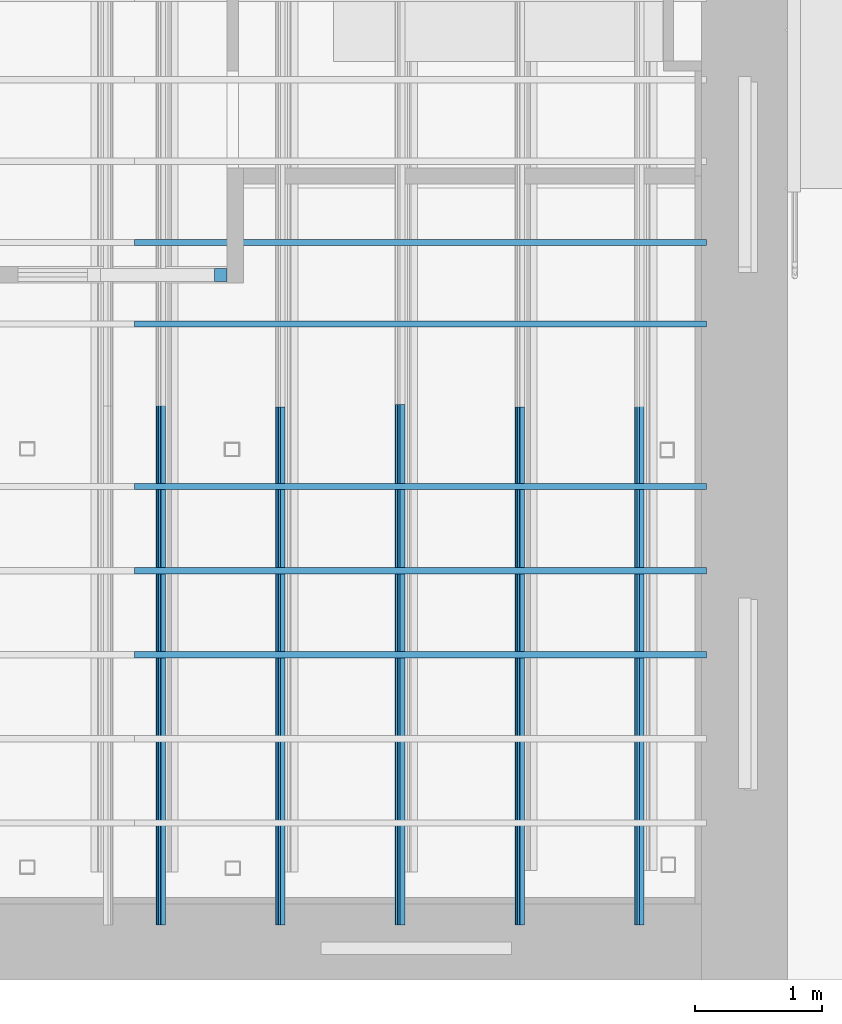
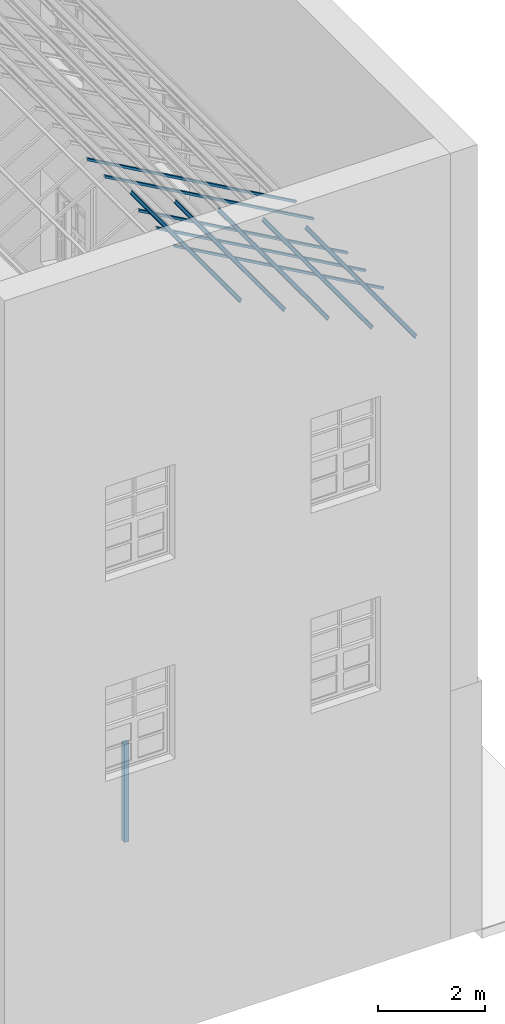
# One storey, part 23 of 75: 10 beams, 1 member, 1 element without a shape of its own.
"""IFC2X3 building model written with IfcOpenShell, lengths in metres."""

from ifc_helpers import new_model, entity, si_unit, converted_unit, derived_unit, direction, frame, frame_2d, origin, origin_2d_with_axis, place, context, subcontext, project, spatial, polyline, circle_curve, parameter, trimmed, segment, composite_curve, rectangle, outline, extrude, clip, halfspace, source, transform, mapped, material, type_object, type_shapes, element, aggregate, save


model = new_model("IFC2X3")

# Units and contexts
model_context = context("Model", 3, precision=1e-05, world=origin(), true_north=direction((6.12303176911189e-17, 1.0)))
body_context = subcontext(model_context, "Body", "Model", "MODEL_VIEW")
ifc_project = project(units=[si_unit("LENGTHUNIT", "METRE"), si_unit("AREAUNIT", "SQUARE_METRE"), si_unit("VOLUMEUNIT", "CUBIC_METRE"), converted_unit("PLANEANGLEUNIT", "DEGREE", entity("IfcRatioMeasure", 0.0174532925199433), si_unit("PLANEANGLEUNIT", "RADIAN"), dimensions=[0, 0, 0, 0, 0, 0, 0]), si_unit("MASSUNIT", "GRAM", prefix="KILO"), derived_unit("MASSDENSITYUNIT", [(si_unit("MASSUNIT", "GRAM", prefix="KILO"), 1), (si_unit("LENGTHUNIT", "METRE"), -3)]), derived_unit("MOMENTOFINERTIAUNIT", [(si_unit("LENGTHUNIT", "METRE"), 4)]), si_unit("TIMEUNIT", "SECOND"), si_unit("FREQUENCYUNIT", "HERTZ"), si_unit("THERMODYNAMICTEMPERATUREUNIT", "DEGREE_CELSIUS"), derived_unit("THERMALTRANSMITTANCEUNIT", [(si_unit("MASSUNIT", "GRAM", prefix="KILO"), 1), (si_unit("THERMODYNAMICTEMPERATUREUNIT", "KELVIN"), -1), (si_unit("TIMEUNIT", "SECOND"), -3)]), derived_unit("VOLUMETRICFLOWRATEUNIT", [(si_unit("LENGTHUNIT", "METRE"), 3), (si_unit("TIMEUNIT", "SECOND"), -1)]), si_unit("ELECTRICCURRENTUNIT", "AMPERE"), si_unit("ELECTRICVOLTAGEUNIT", "VOLT"), si_unit("POWERUNIT", "WATT"), si_unit("FORCEUNIT", "NEWTON", prefix="KILO"), si_unit("ILLUMINANCEUNIT", "LUX"), si_unit("LUMINOUSFLUXUNIT", "LUMEN"), si_unit("LUMINOUSINTENSITYUNIT", "CANDELA"), derived_unit("USERDEFINED", [(si_unit("MASSUNIT", "GRAM", prefix="KILO"), -1), (si_unit("LENGTHUNIT", "METRE"), -2), (si_unit("TIMEUNIT", "SECOND"), 3), (si_unit("LUMINOUSFLUXUNIT", "LUMEN"), 1)]), derived_unit("LINEARVELOCITYUNIT", [(si_unit("LENGTHUNIT", "METRE"), 1), (si_unit("TIMEUNIT", "SECOND"), -1)]), si_unit("PRESSUREUNIT", "PASCAL"), derived_unit("USERDEFINED", [(si_unit("LENGTHUNIT", "METRE"), -2), (si_unit("MASSUNIT", "GRAM", prefix="KILO"), 1), (si_unit("TIMEUNIT", "SECOND"), -2)]), derived_unit("LINEARFORCEUNIT", [(si_unit("MASSUNIT", "GRAM", prefix="KILO"), 1), (si_unit("LENGTHUNIT", "METRE"), 1), (si_unit("TIMEUNIT", "SECOND"), -2), (si_unit("LENGTHUNIT", "METRE"), -1)]), derived_unit("PLANARFORCEUNIT", [(si_unit("MASSUNIT", "GRAM", prefix="KILO"), 1), (si_unit("LENGTHUNIT", "METRE"), 1), (si_unit("TIMEUNIT", "SECOND"), -2), (si_unit("LENGTHUNIT", "METRE"), -2)])], contexts=[model_context])

# Site, building, storey
site_placement = place(None, origin())
site = spatial("IfcSite", under=ifc_project, at=site_placement, Name="Superficie", CompositionType="ELEMENT")
building_placement = place(site_placement, origin())
building = spatial("IfcBuilding", under=site, at=building_placement, Name="Telegestiones", CompositionType="ELEMENT")
storey_placement = place(building_placement, origin())
storey = spatial("IfcBuildingStorey", under=building, at=storey_placement, Name="Nivel 0_NPT", CompositionType="ELEMENT", Elevation=0.0)

# Beams
ifc_material_1 = material(Name="Metal - Acero - 345 MPa")
beam_type_1 = type_object("IfcBeamType", Name="IPN - Secciones en I con alas cónicas:IPN 80", PredefinedType="NOTDEFINED")
beam_1_placement = place(storey_placement, frame((10.7251251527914, -5.95939277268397, 15.6110271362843), z_axis=(0.0, 0.0, 1.0), x_axis=(0.0, 1.0, 0.0)))
element("IfcBeam", 1, at=beam_1_placement, inside=storey, type_object=beam_type_1, material=ifc_material_1, Name="IPN - Secciones en I con alas cónicas:IPN 80", ObjectType="IPN - Secciones en I con alas cónicas:IPN 80", context=body_context, shape_type="SweptSolid", body=[
    extrude(outline(composite_curve([segment(polyline([(0.0375704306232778, -0.0210000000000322), (0.0399999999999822, -0.0210000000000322)]), True, "CONTINUOUS"), segment(polyline([(0.0399999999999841, -0.0210000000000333), (0.0400000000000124, 0.020999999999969)]), True, "CONTINUOUS"), segment(polyline([(0.0400000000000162, 0.0209999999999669), (0.0375704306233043, 0.0209999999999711)]), True, "CONTINUOUS"), segment(trimmed(circle_curve(frame_2d((0.0375704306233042, 0.0186999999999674), x_axis=(0.0, 1.0)), 0.00230000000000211), [parameter(0.0)], [parameter(82.0303896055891)], True, "PARAMETER"), True, "CONTINUOUS"), segment(polyline([(0.0352926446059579, 0.0190188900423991), (0.0333732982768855, 0.00530927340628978)]), True, "CONTINUOUS"), segment(trimmed(circle_curve(frame_2d((0.029510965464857, 0.0058499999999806), x_axis=(0.990341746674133, -0.138647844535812)), 0.00390000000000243), [parameter(277.969610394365)], [parameter(0.0)], True, "PARAMETER"), False, "CONTINUOUS"), segment(polyline([(0.0295109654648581, 0.00194999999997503), (-0.0295109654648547, 0.00195000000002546)]), True, "CONTINUOUS"), segment(trimmed(circle_curve(frame_2d((-0.0295109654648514, 0.00585000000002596), x_axis=(0.0, -1.0)), 0.0038999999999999), [parameter(277.969610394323)], [parameter(0.0)], True, "PARAMETER"), False, "CONTINUOUS"), segment(polyline([(-0.0333732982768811, 0.00530927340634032), (-0.0352926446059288, 0.0190188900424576)]), True, "CONTINUOUS"), segment(trimmed(circle_curve(frame_2d((-0.0375704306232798, 0.0187000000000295), x_axis=(0.990341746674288, 0.13864784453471)), 0.00230000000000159), [parameter(0.0)], [parameter(82.0303896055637)], True, "PARAMETER"), True, "CONTINUOUS"), segment(polyline([(-0.0375704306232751, 0.0210000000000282), (-0.039999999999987, 0.0210000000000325)]), True, "CONTINUOUS"), segment(polyline([(-0.0399999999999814, 0.0210000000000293), (-0.0400000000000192, -0.0209999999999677)]), True, "CONTINUOUS"), segment(polyline([(-0.0400000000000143, -0.020999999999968), (-0.03757043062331, -0.020999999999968)]), True, "CONTINUOUS"), segment(trimmed(circle_curve(frame_2d((-0.0375704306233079, -0.0186999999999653), x_axis=(0.0, -1.0)), 0.00230000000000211), [parameter(0.0)], [parameter(82.0303896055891)], True, "PARAMETER"), True, "CONTINUOUS"), segment(polyline([(-0.0352926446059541, -0.0190188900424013), (-0.0333732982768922, -0.00530927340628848)]), True, "CONTINUOUS"), segment(trimmed(circle_curve(frame_2d((-0.0295109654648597, -0.0058499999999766), x_axis=(-0.990341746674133, 0.138647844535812)), 0.00390000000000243), [parameter(277.969610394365)], [parameter(0.0)], True, "PARAMETER"), False, "CONTINUOUS"), segment(polyline([(-0.0295109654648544, -0.00194999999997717), (0.029510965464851, -0.00195000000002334)]), True, "CONTINUOUS"), segment(trimmed(circle_curve(frame_2d((0.0295109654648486, -0.00585000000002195), x_axis=(0.0, 1.0)), 0.0038999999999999), [parameter(277.969610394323)], [parameter(0.0)], True, "PARAMETER"), False, "CONTINUOUS"), segment(polyline([(0.0333732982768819, -0.00530927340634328), (0.0352926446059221, -0.0190188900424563)]), True, "CONTINUOUS"), segment(trimmed(circle_curve(frame_2d((0.0375704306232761, -0.0187000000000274), x_axis=(-0.990341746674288, -0.13864784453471)), 0.00230000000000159), [parameter(0.0)], [parameter(82.0303896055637)], True, "PARAMETER"), True, "CONTINUOUS")], self_intersect=False)), frame((-0.0138500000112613, 0.0245925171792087, -0.0435339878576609), z_axis=(1.0, 0.0, 0.0), x_axis=(0.0, -0.491850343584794, 0.87067975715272)), (0.0, 0.0, 1.0), 4.0958500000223),
])
beam_2_placement = place(storey_placement, frame((14.4995219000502, -5.95939277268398, 13.4788558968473), z_axis=(0.0, 0.0, 1.0), x_axis=(0.0, 1.0, 0.0)))
element("IfcBeam", 2, at=beam_2_placement, inside=storey, type_object=beam_type_1, material=ifc_material_1, Name="IPN - Secciones en I con alas cónicas:IPN 80", ObjectType="IPN - Secciones en I con alas cónicas:IPN 80", context=body_context, shape_type="SweptSolid", body=[
    extrude(outline(composite_curve([segment(polyline([(0.0375704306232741, -0.0210000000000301), (0.0399999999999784, -0.0210000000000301)]), True, "CONTINUOUS"), segment(polyline([(0.0399999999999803, -0.0210000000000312), (0.0400000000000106, 0.0209999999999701)]), True, "CONTINUOUS"), segment(polyline([(0.0400000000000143, 0.020999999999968), (0.0375704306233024, 0.0209999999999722)]), True, "CONTINUOUS"), segment(trimmed(circle_curve(frame_2d((0.0375704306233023, 0.0186999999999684), x_axis=(0.0, 1.0)), 0.00230000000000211), [parameter(0.0)], [parameter(82.0303896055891)], True, "PARAMETER"), True, "CONTINUOUS"), segment(polyline([(0.0352926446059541, 0.0190188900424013), (0.0333732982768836, 0.00530927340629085)]), True, "CONTINUOUS"), segment(trimmed(circle_curve(frame_2d((0.0295109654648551, 0.00584999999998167), x_axis=(0.990341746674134, -0.138647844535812)), 0.00390000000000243), [parameter(277.969610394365)], [parameter(0.0)], True, "PARAMETER"), False, "CONTINUOUS"), segment(polyline([(0.0295109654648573, 0.00194999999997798), (-0.0295109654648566, 0.00195000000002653)]), True, "CONTINUOUS"), segment(trimmed(circle_curve(frame_2d((-0.0295109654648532, 0.00585000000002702), x_axis=(0.0, -1.0)), 0.0038999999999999), [parameter(277.969610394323)], [parameter(0.0)], True, "PARAMETER"), False, "CONTINUOUS"), segment(polyline([(-0.0333732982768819, 0.00530927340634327), (-0.0352926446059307, 0.0190188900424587)]), True, "CONTINUOUS"), segment(trimmed(circle_curve(frame_2d((-0.0375704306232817, 0.0187000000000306), x_axis=(0.990341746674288, 0.13864784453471)), 0.00230000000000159), [parameter(0.0)], [parameter(82.0303896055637)], True, "PARAMETER"), True, "CONTINUOUS"), segment(polyline([(-0.0375704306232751, 0.0210000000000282), (-0.0399999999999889, 0.0210000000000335)]), True, "CONTINUOUS"), segment(polyline([(-0.0399999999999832, 0.0210000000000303), (-0.040000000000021, -0.0209999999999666)]), True, "CONTINUOUS"), segment(polyline([(-0.0400000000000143, -0.020999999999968), (-0.03757043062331, -0.020999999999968)]), True, "CONTINUOUS"), segment(trimmed(circle_curve(frame_2d((-0.0375704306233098, -0.0186999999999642), x_axis=(0.0, -1.0)), 0.00230000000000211), [parameter(0.0)], [parameter(82.0303896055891)], True, "PARAMETER"), True, "CONTINUOUS"), segment(polyline([(-0.0352926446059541, -0.0190188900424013), (-0.0333732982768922, -0.00530927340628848)]), True, "CONTINUOUS"), segment(trimmed(circle_curve(frame_2d((-0.0295109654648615, -0.00584999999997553), x_axis=(-0.990341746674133, 0.138647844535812)), 0.00390000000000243), [parameter(277.969610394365)], [parameter(0.0)], True, "PARAMETER"), False, "CONTINUOUS"), segment(polyline([(-0.0295109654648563, -0.0019499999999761), (0.0295109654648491, -0.00195000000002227)]), True, "CONTINUOUS"), segment(trimmed(circle_curve(frame_2d((0.0295109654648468, -0.00585000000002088), x_axis=(0.0, 1.0)), 0.0038999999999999), [parameter(277.969610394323)], [parameter(0.0)], True, "PARAMETER"), False, "CONTINUOUS"), segment(polyline([(0.03337329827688, -0.00530927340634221), (0.0352926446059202, -0.0190188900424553)]), True, "CONTINUOUS"), segment(trimmed(circle_curve(frame_2d((0.0375704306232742, -0.0187000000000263), x_axis=(-0.990341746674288, -0.13864784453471)), 0.00230000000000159), [parameter(0.0)], [parameter(82.0303896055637)], True, "PARAMETER"), True, "CONTINUOUS")], self_intersect=False)), frame((-0.013750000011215, 0.0245925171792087, -0.0435339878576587), z_axis=(1.0, 0.0, 0.0), x_axis=(0.0, -0.491850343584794, 0.87067975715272)), (0.0, 0.0, 1.0), 4.1128500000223),
])
beam_3_placement = place(storey_placement, frame((11.6687243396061, -5.95939277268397, 15.0779843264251), z_axis=(0.0, 0.0, 1.0), x_axis=(0.0, 1.0, 0.0)))
element("IfcBeam", 3, at=beam_3_placement, inside=storey, type_object=beam_type_1, material=ifc_material_1, Name="IPN - Secciones en I con alas cónicas:IPN 80", ObjectType="IPN - Secciones en I con alas cónicas:IPN 80", context=body_context, shape_type="SweptSolid", body=[
    extrude(outline(composite_curve([segment(polyline([(0.0375704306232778, -0.0210000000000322), (0.0399999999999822, -0.0210000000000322)]), True, "CONTINUOUS"), segment(polyline([(0.0399999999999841, -0.0210000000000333), (0.0400000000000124, 0.020999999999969)]), True, "CONTINUOUS"), segment(polyline([(0.0400000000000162, 0.0209999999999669), (0.0375704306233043, 0.0209999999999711)]), True, "CONTINUOUS"), segment(trimmed(circle_curve(frame_2d((0.0375704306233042, 0.0186999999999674), x_axis=(0.0, 1.0)), 0.00230000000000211), [parameter(0.0)], [parameter(82.0303896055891)], True, "PARAMETER"), True, "CONTINUOUS"), segment(polyline([(0.0352926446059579, 0.0190188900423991), (0.0333732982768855, 0.00530927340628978)]), True, "CONTINUOUS"), segment(trimmed(circle_curve(frame_2d((0.029510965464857, 0.0058499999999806), x_axis=(0.990341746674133, -0.138647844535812)), 0.00390000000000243), [parameter(277.969610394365)], [parameter(0.0)], True, "PARAMETER"), False, "CONTINUOUS"), segment(polyline([(0.0295109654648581, 0.00194999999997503), (-0.0295109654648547, 0.00195000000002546)]), True, "CONTINUOUS"), segment(trimmed(circle_curve(frame_2d((-0.0295109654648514, 0.00585000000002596), x_axis=(0.0, -1.0)), 0.0038999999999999), [parameter(277.969610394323)], [parameter(0.0)], True, "PARAMETER"), False, "CONTINUOUS"), segment(polyline([(-0.0333732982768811, 0.00530927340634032), (-0.0352926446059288, 0.0190188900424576)]), True, "CONTINUOUS"), segment(trimmed(circle_curve(frame_2d((-0.0375704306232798, 0.0187000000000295), x_axis=(0.990341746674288, 0.13864784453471)), 0.00230000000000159), [parameter(0.0)], [parameter(82.0303896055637)], True, "PARAMETER"), True, "CONTINUOUS"), segment(polyline([(-0.0375704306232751, 0.0210000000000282), (-0.039999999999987, 0.0210000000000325)]), True, "CONTINUOUS"), segment(polyline([(-0.0399999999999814, 0.0210000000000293), (-0.0400000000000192, -0.0209999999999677)]), True, "CONTINUOUS"), segment(polyline([(-0.0400000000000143, -0.020999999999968), (-0.03757043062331, -0.020999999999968)]), True, "CONTINUOUS"), segment(trimmed(circle_curve(frame_2d((-0.0375704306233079, -0.0186999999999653), x_axis=(0.0, -1.0)), 0.00230000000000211), [parameter(0.0)], [parameter(82.0303896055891)], True, "PARAMETER"), True, "CONTINUOUS"), segment(polyline([(-0.0352926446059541, -0.0190188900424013), (-0.0333732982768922, -0.00530927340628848)]), True, "CONTINUOUS"), segment(trimmed(circle_curve(frame_2d((-0.0295109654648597, -0.0058499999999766), x_axis=(-0.990341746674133, 0.138647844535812)), 0.00390000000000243), [parameter(277.969610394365)], [parameter(0.0)], True, "PARAMETER"), False, "CONTINUOUS"), segment(polyline([(-0.0295109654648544, -0.00194999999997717), (0.029510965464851, -0.00195000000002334)]), True, "CONTINUOUS"), segment(trimmed(circle_curve(frame_2d((0.0295109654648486, -0.00585000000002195), x_axis=(0.0, 1.0)), 0.0038999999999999), [parameter(277.969610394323)], [parameter(0.0)], True, "PARAMETER"), False, "CONTINUOUS"), segment(polyline([(0.0333732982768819, -0.00530927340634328), (0.0352926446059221, -0.0190188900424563)]), True, "CONTINUOUS"), segment(trimmed(circle_curve(frame_2d((0.0375704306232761, -0.0187000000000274), x_axis=(-0.990341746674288, -0.13864784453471)), 0.00230000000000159), [parameter(0.0)], [parameter(82.0303896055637)], True, "PARAMETER"), True, "CONTINUOUS")], self_intersect=False)), frame((-0.0137500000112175, 0.0245925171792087, -0.0435339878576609), z_axis=(1.0, 0.0, 0.0), x_axis=(0.0, -0.491850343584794, 0.87067975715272)), (0.0, 0.0, 1.0), 4.0848500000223),
])
beam_4_placement = place(storey_placement, frame((12.6123235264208, -5.95939277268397, 14.5449415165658), z_axis=(0.0, 0.0, 1.0), x_axis=(0.0, 1.0, 0.0)))
element("IfcBeam", 4, at=beam_4_placement, inside=storey, type_object=beam_type_1, material=ifc_material_1, Name="IPN - Secciones en I con alas cónicas:IPN 80", ObjectType="IPN - Secciones en I con alas cónicas:IPN 80", context=body_context, shape_type="SweptSolid", body=[
    extrude(outline(composite_curve([segment(polyline([(0.0375704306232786, -0.0210000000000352), (0.039999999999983, -0.0210000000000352)]), True, "CONTINUOUS"), segment(polyline([(0.0399999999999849, -0.0210000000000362), (0.0400000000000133, 0.0209999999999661)]), True, "CONTINUOUS"), segment(polyline([(0.040000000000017, 0.0209999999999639), (0.0375704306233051, 0.0209999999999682)]), True, "CONTINUOUS"), segment(trimmed(circle_curve(frame_2d((0.037570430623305, 0.0186999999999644), x_axis=(0.0, 1.0)), 0.00230000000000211), [parameter(0.0)], [parameter(82.0303896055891)], True, "PARAMETER"), True, "CONTINUOUS"), segment(polyline([(0.0352926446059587, 0.0190188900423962), (0.0333732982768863, 0.00530927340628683)]), True, "CONTINUOUS"), segment(trimmed(circle_curve(frame_2d((0.0295109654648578, 0.00584999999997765), x_axis=(0.990341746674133, -0.138647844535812)), 0.00390000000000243), [parameter(277.969610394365)], [parameter(0.0)], True, "PARAMETER"), False, "CONTINUOUS"), segment(polyline([(0.029510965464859, 0.00194999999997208), (-0.0295109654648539, 0.00195000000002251)]), True, "CONTINUOUS"), segment(trimmed(circle_curve(frame_2d((-0.0295109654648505, 0.00585000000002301), x_axis=(0.0, -1.0)), 0.0038999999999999), [parameter(277.969610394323)], [parameter(0.0)], True, "PARAMETER"), False, "CONTINUOUS"), segment(polyline([(-0.0333732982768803, 0.00530927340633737), (-0.035292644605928, 0.0190188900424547)]), True, "CONTINUOUS"), segment(trimmed(circle_curve(frame_2d((-0.037570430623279, 0.0187000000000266), x_axis=(0.990341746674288, 0.13864784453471)), 0.00230000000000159), [parameter(0.0)], [parameter(82.0303896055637)], True, "PARAMETER"), True, "CONTINUOUS"), segment(polyline([(-0.0375704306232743, 0.0210000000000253), (-0.0399999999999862, 0.0210000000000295)]), True, "CONTINUOUS"), segment(polyline([(-0.0399999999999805, 0.0210000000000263), (-0.0400000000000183, -0.0209999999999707)]), True, "CONTINUOUS"), segment(polyline([(-0.0400000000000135, -0.0209999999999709), (-0.0375704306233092, -0.0209999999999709)]), True, "CONTINUOUS"), segment(trimmed(circle_curve(frame_2d((-0.0375704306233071, -0.0186999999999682), x_axis=(0.0, -1.0)), 0.00230000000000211), [parameter(0.0)], [parameter(82.0303896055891)], True, "PARAMETER"), True, "CONTINUOUS"), segment(polyline([(-0.0352926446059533, -0.0190188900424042), (-0.0333732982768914, -0.00530927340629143)]), True, "CONTINUOUS"), segment(trimmed(circle_curve(frame_2d((-0.0295109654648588, -0.00584999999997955), x_axis=(-0.990341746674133, 0.138647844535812)), 0.00390000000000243), [parameter(277.969610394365)], [parameter(0.0)], True, "PARAMETER"), False, "CONTINUOUS"), segment(polyline([(-0.0295109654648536, -0.00194999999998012), (0.0295109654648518, -0.00195000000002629)]), True, "CONTINUOUS"), segment(trimmed(circle_curve(frame_2d((0.0295109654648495, -0.0058500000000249), x_axis=(0.0, 1.0)), 0.0038999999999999), [parameter(277.969610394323)], [parameter(0.0)], True, "PARAMETER"), False, "CONTINUOUS"), segment(polyline([(0.0333732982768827, -0.00530927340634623), (0.0352926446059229, -0.0190188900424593)]), True, "CONTINUOUS"), segment(trimmed(circle_curve(frame_2d((0.0375704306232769, -0.0187000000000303), x_axis=(-0.990341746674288, -0.13864784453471)), 0.00230000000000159), [parameter(0.0)], [parameter(82.0303896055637)], True, "PARAMETER"), True, "CONTINUOUS")], self_intersect=False)), frame((-0.0137500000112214, 0.0245925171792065, -0.0435339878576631), z_axis=(1.0, 0.0, 0.0), x_axis=(0.0, -0.491850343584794, 0.87067975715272)), (0.0, 0.0, 1.0), 4.1048500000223),
])
beam_5_placement = place(storey_placement, frame((13.5559227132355, -5.95939277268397, 14.0118987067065), z_axis=(0.0, 0.0, 1.0), x_axis=(0.0, 1.0, 0.0)))
element("IfcBeam", 5, at=beam_5_placement, inside=storey, type_object=beam_type_1, material=ifc_material_1, Name="IPN - Secciones en I con alas cónicas:IPN 80", ObjectType="IPN - Secciones en I con alas cónicas:IPN 80", context=body_context, shape_type="SweptSolid", body=[
    extrude(outline(composite_curve([segment(polyline([(0.0375704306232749, -0.021000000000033), (0.0399999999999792, -0.021000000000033)]), True, "CONTINUOUS"), segment(polyline([(0.0399999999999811, -0.0210000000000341), (0.0400000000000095, 0.0209999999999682)]), True, "CONTINUOUS"), segment(polyline([(0.0400000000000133, 0.0209999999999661), (0.0375704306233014, 0.0209999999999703)]), True, "CONTINUOUS"), segment(trimmed(circle_curve(frame_2d((0.0375704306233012, 0.0186999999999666), x_axis=(0.0, 1.0)), 0.00230000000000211), [parameter(0.0)], [parameter(82.0303896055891)], True, "PARAMETER"), True, "CONTINUOUS"), segment(polyline([(0.0352926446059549, 0.0190188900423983), (0.0333732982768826, 0.00530927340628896)]), True, "CONTINUOUS"), segment(trimmed(circle_curve(frame_2d((0.029510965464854, 0.00584999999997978), x_axis=(0.990341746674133, -0.138647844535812)), 0.00390000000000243), [parameter(277.969610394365)], [parameter(0.0)], True, "PARAMETER"), False, "CONTINUOUS"), segment(polyline([(0.0295109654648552, 0.00194999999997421), (-0.0295109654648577, 0.00195000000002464)]), True, "CONTINUOUS"), segment(trimmed(circle_curve(frame_2d((-0.0295109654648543, 0.00585000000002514), x_axis=(0.0, -1.0)), 0.0038999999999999), [parameter(277.969610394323)], [parameter(0.0)], True, "PARAMETER"), False, "CONTINUOUS"), segment(polyline([(-0.033373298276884, 0.0053092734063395), (-0.0352926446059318, 0.0190188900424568)]), True, "CONTINUOUS"), segment(trimmed(circle_curve(frame_2d((-0.0375704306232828, 0.0187000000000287), x_axis=(0.990341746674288, 0.13864784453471)), 0.00230000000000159), [parameter(0.0)], [parameter(82.0303896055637)], True, "PARAMETER"), True, "CONTINUOUS"), segment(polyline([(-0.0375704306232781, 0.0210000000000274), (-0.03999999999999, 0.0210000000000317)]), True, "CONTINUOUS"), segment(polyline([(-0.0399999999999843, 0.0210000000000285), (-0.0400000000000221, -0.0209999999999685)]), True, "CONTINUOUS"), segment(polyline([(-0.0400000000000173, -0.0209999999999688), (-0.0375704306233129, -0.0209999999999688)]), True, "CONTINUOUS"), segment(trimmed(circle_curve(frame_2d((-0.0375704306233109, -0.0186999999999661), x_axis=(0.0, -1.0)), 0.00230000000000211), [parameter(0.0)], [parameter(82.0303896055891)], True, "PARAMETER"), True, "CONTINUOUS"), segment(polyline([(-0.035292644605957, -0.0190188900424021), (-0.0333732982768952, -0.0053092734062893)]), True, "CONTINUOUS"), segment(trimmed(circle_curve(frame_2d((-0.0295109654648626, -0.00584999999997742), x_axis=(-0.990341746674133, 0.138647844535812)), 0.00390000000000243), [parameter(277.969610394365)], [parameter(0.0)], True, "PARAMETER"), False, "CONTINUOUS"), segment(polyline([(-0.0295109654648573, -0.00194999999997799), (0.029510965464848, -0.00195000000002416)]), True, "CONTINUOUS"), segment(trimmed(circle_curve(frame_2d((0.0295109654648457, -0.00585000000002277), x_axis=(0.0, 1.0)), 0.0038999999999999), [parameter(277.969610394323)], [parameter(0.0)], True, "PARAMETER"), False, "CONTINUOUS"), segment(polyline([(0.033373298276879, -0.0053092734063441), (0.0352926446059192, -0.0190188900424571)]), True, "CONTINUOUS"), segment(trimmed(circle_curve(frame_2d((0.0375704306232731, -0.0187000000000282), x_axis=(-0.990341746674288, -0.13864784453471)), 0.00230000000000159), [parameter(0.0)], [parameter(82.0303896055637)], True, "PARAMETER"), True, "CONTINUOUS")], self_intersect=False)), frame((-0.0137500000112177, 0.0245925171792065, -0.0435339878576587), z_axis=(1.0, 0.0, 0.0), x_axis=(0.0, -0.491850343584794, 0.87067975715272)), (0.0, 0.0, 1.0), 4.0848500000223),
])

# Curtain wall, member
curtain_wall_type = type_object("IfcCurtainWallType", PredefinedType="NOTDEFINED")
curtain_wall_placement = place(storey_placement, origin())
curtain_wall = element("IfcCurtainWall", 6, at=curtain_wall_placement, inside=storey, type_object=curtain_wall_type)
ifc_material_2 = material(Name="Aluminio")
member_type = type_object("IfcMemberType", Name="Montante rectangular:10x10", PredefinedType="MULLION", material=ifc_material_2)
shared_shape = source(origin(), body_context, "Body", "SweptSolid", [
    extrude(rectangle(XDim=0.1, YDim=0.1, at=origin_2d_with_axis()), frame((-0.05, 0.0, -2.25), z_axis=(0.0, 0.0, 1.0), x_axis=(0.0, -1.0, 0.0)), (0.0, 0.0, 1.0), 2.25),
])
type_shapes(member_type, [shared_shape])
member_placement = place(curtain_wall_placement, frame((11.2238493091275, -0.846462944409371, 2.25)))
member = element("IfcMember", 7, at=member_placement, type_object=member_type, Name="Montante rectangular:10x10", ObjectType="Montante rectangular:10x10", context=body_context, shape_type="MappedRepresentation", body=[
    mapped(shared_shape, transform((0.0, 0.0, 0.0), scale=1.0)),
])
aggregate(curtain_wall, [member])

# Beams
ifc_material_3 = material(Name="Madera - Madera de construcción")
beam_type_2 = type_object("IfcBeamType", Name="Madera:50x50mm", PredefinedType="NOTDEFINED")
beam_6_placement = place(storey_placement, frame((14.9763682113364, -3.17805088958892, 13.2094835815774), z_axis=(0.491850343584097, 0.0, 0.870679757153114), x_axis=(-0.870679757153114, 0.0, 0.491850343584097)))
element("IfcBeam", 8, at=beam_6_placement, inside=storey, type_object=beam_type_2, material=ifc_material_3, Name="Madera:50x50mm", ObjectType="Madera:50x50mm", context=body_context, shape_type="SweptSolid", body=[
    clip(extrude(rectangle(XDim=0.0500000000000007, YDim=0.0500000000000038, at=frame_2d((-1.47451495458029e-15, 0.0), x_axis=(1.0, 0.0))), frame((-0.0851437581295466, 0.0, -0.115000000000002), z_axis=(1.0, 0.0, 0.0), x_axis=(0.0, 0.0, -1.0)), (0.0, 0.0, 1.0), 5.18302027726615), halfspace(frame((5.06963132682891, 0.0, -0.140000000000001), z_axis=(0.870679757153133, 0.0, -0.491850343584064), x_axis=(0.0, -1.0, 0.0)), False)),
])
beam_7_placement = place(storey_placement, frame((14.9763682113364, -2.51472183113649, 13.2094835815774), z_axis=(0.491850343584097, 0.0, 0.870679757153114), x_axis=(-0.870679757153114, 0.0, 0.491850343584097)))
element("IfcBeam", 9, at=beam_7_placement, inside=storey, type_object=beam_type_2, material=ifc_material_3, Name="Madera:50x50mm", ObjectType="Madera:50x50mm", context=body_context, shape_type="SweptSolid", body=[
    clip(extrude(rectangle(XDim=0.0499999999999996, YDim=0.0500000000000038, at=origin_2d_with_axis()), frame((-0.0851437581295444, 0.0, -0.115000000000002), z_axis=(1.0, 0.0, 0.0), x_axis=(0.0, 0.0, -1.0)), (0.0, 0.0, 1.0), 5.18302027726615), halfspace(frame((5.06963132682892, 0.0, -0.140000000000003), z_axis=(0.870679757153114, 0.0, -0.491850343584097), x_axis=(0.0, -1.0, 0.0)), False)),
])
beam_8_placement = place(storey_placement, frame((14.9763682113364, -3.84137994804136, 13.2094835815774), z_axis=(0.491850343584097, 0.0, 0.870679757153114), x_axis=(-0.870679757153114, 0.0, 0.491850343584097)))
element("IfcBeam", 10, at=beam_8_placement, inside=storey, type_object=beam_type_2, material=ifc_material_3, Name="Madera:50x50mm", ObjectType="Madera:50x50mm", context=body_context, shape_type="SweptSolid", body=[
    clip(extrude(rectangle(XDim=0.0500000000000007, YDim=0.0500000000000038, at=frame_2d((1.47451495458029e-15, 0.0), x_axis=(1.0, 0.0))), frame((-0.0851437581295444, 0.0, -0.115000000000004), z_axis=(1.0, 0.0, 0.0), x_axis=(0.0, 0.0, -1.0)), (0.0, 0.0, 1.0), 5.18302027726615), halfspace(frame((5.06963132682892, 0.0, -0.140000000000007), z_axis=(0.870679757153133, 0.0, -0.491850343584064), x_axis=(0.0, -1.0, 0.0)), False)),
])
beam_9_placement = place(storey_placement, frame((14.9763682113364, -0.591059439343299, 13.2094835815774), z_axis=(0.491850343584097, 0.0, 0.870679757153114), x_axis=(-0.870679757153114, 0.0, 0.491850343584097)))
element("IfcBeam", 11, at=beam_9_placement, inside=storey, type_object=beam_type_2, material=ifc_material_3, Name="Madera:50x50mm", ObjectType="Madera:50x50mm", context=body_context, shape_type="SweptSolid", body=[
    clip(extrude(rectangle(XDim=0.0499999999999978, YDim=0.0500000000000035, at=frame_2d((1.47451495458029e-15, 0.0), x_axis=(1.0, 0.0))), frame((-0.0851437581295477, 0.0, -0.115), z_axis=(1.0, 0.0, 0.0), x_axis=(0.0, 0.0, -1.0)), (0.0, 0.0, 1.0), 5.18302027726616), halfspace(frame((5.06963132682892, 0.0, -0.140000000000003), z_axis=(0.870679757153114, 0.0, -0.491850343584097), x_axis=(0.0, -1.0, 0.0)), False)),
])
beam_10_placement = place(storey_placement, frame((14.9763682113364, -1.23322610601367, 13.2094835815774), z_axis=(0.491850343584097, 0.0, 0.870679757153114), x_axis=(-0.870679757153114, 0.0, 0.491850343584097)))
element("IfcBeam", 12, at=beam_10_placement, inside=storey, type_object=beam_type_2, material=ifc_material_3, Name="Madera:50x50mm", ObjectType="Madera:50x50mm", context=body_context, shape_type="SweptSolid", body=[
    clip(extrude(rectangle(XDim=0.0500000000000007, YDim=0.0500000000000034, at=frame_2d((9.41954847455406e-16, -6.76542155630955e-17), x_axis=(1.0, 0.0))), frame((-0.0851437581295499, 0.0, -0.114999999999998), z_axis=(1.0, 0.0, 0.0), x_axis=(0.0, 0.0, -1.0)), (0.0, 0.0, 1.0), 5.18302027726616), halfspace(frame((5.06963132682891, 0.0, -0.139999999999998), z_axis=(0.870679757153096, 0.0, -0.49185034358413), x_axis=(0.0, -1.0, 0.0)), False)),
])

save(model, "model.ifc")
